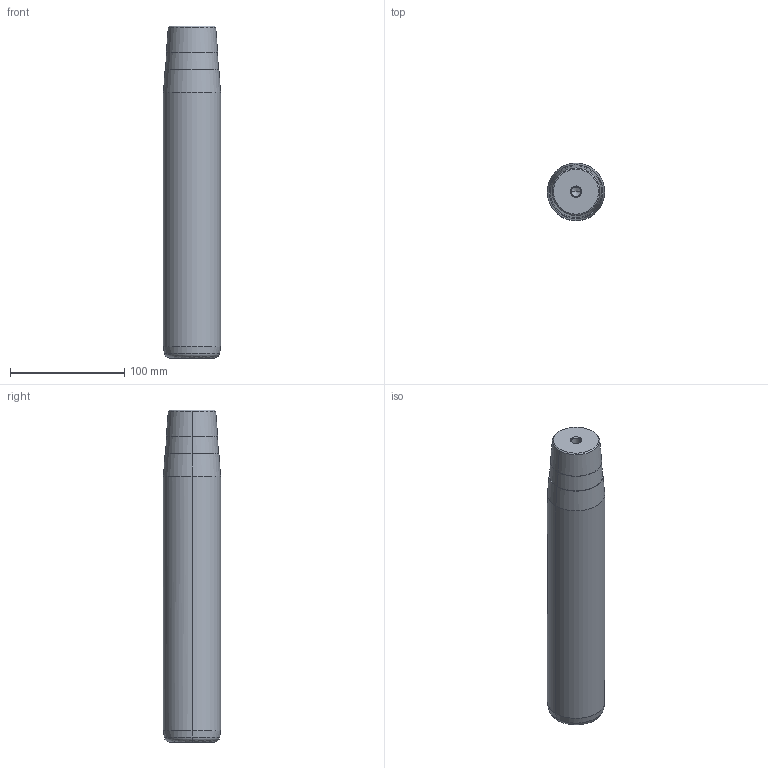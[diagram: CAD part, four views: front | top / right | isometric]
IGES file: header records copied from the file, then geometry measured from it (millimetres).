
Start section: START RECORD GO HERE.
Global section: file name: 722-50x250x290.igs; native system: DASSAULT SYSTEMES CATIA V5 R20 - www.3ds.com; preprocessor: CATIA Version 5 Release 20 ; author: Utente; organization: NB04-ASUS; date: 20210107.203841; units: millimetre
Bounding box: 50 x 50 x 290 mm (x, y, z)
Surface area: 48952 mm2 (no closed solid volume)
Topology: 0 solids, 0 shells, 32 faces, 128 edges, 124 vertices
Faces by surface type: revolution 30, plane 2
